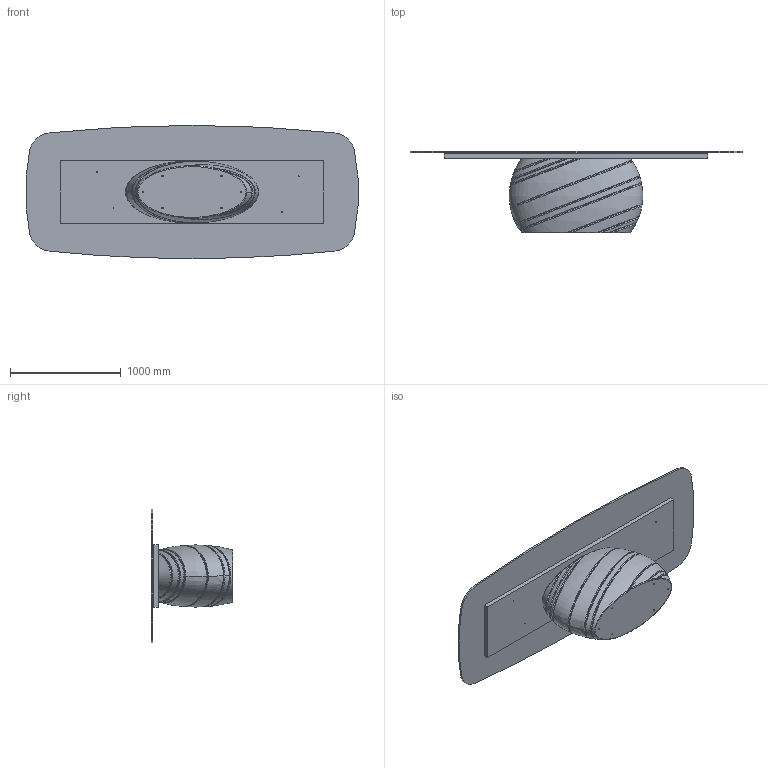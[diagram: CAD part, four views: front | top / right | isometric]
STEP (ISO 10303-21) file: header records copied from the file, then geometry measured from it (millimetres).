
FILE_DESCRIPTION (( 'STEP AP203' ), '1' );
FILE_NAME ('GI44G.STEP', '2025-04-22T14:18:57', ( '' ), ( '' ), 'SwSTEP 2.0', 'SolidWorks 2022', '' );
FILE_SCHEMA (( 'CONFIG_CONTROL_DESIGN' ));
Length unit declared in the file: millimetre
Products named in the file (3): GI44G; GIB000xxx-00-BASE GIOVE X 300; PIANI_modello 3D x web_Cristallo 300x120 sag
Assembly tree (2 placements, depth 2):
  GI44G
    PIANI_modello 3D x web_Cristallo 300x120 sag
    GIB000xxx-00-BASE GIOVE X 300
Bounding box: 2991.72 x 737 x 1200 mm (x, y, z)
Volume: 420154241.3 mm3; surface area: 12492645.3 mm2
Topology: 3 solids, 3 shells, 153 faces, 372 edges, 240 vertices
Faces by surface type: bspline 53, cylinder 45, plane 31, cone 24
Entity records: 37129 total; most frequent: CARTESIAN_POINT 33593, ORIENTED_EDGE 744, DIRECTION 555, EDGE_CURVE 372, VERTEX_POINT 240, AXIS2_PLACEMENT_3D 231, EDGE_LOOP 180, FACE_OUTER_BOUND 153
